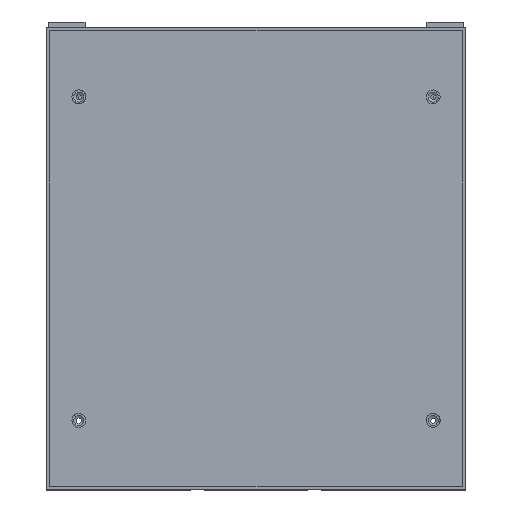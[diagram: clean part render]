
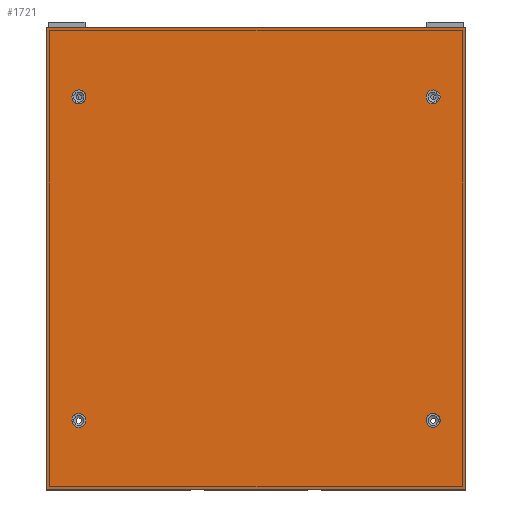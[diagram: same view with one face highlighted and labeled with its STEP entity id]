
A CAD part, top view. The second image highlights one B-rep face of the part: STEP entity #1721.
In plain terms, the highlighted planar face has unit normal (0, 0, 1).
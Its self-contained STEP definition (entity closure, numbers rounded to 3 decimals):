
#1721=ADVANCED_FACE('',(#2962,#2963,#2964,#2965,#2966),#2537,.F.);
#2537=PLANE('',#17333);
#2962=FACE_BOUND('',#3840,.T.);
#2963=FACE_BOUND('',#3841,.T.);
#2964=FACE_BOUND('',#3842,.T.);
#2965=FACE_BOUND('',#3843,.T.);
#2966=FACE_BOUND('',#3844,.T.);
#3840=EDGE_LOOP('',(#7067));
#3841=EDGE_LOOP('',(#7068));
#3842=EDGE_LOOP('',(#7069));
#3843=EDGE_LOOP('',(#7070));
#3844=EDGE_LOOP('',(#7071,#7072,#7073,#7074));
#5188=CIRCLE('',#17329,2.25);
#5189=CIRCLE('',#17330,2.25);
#5190=CIRCLE('',#17331,2.25);
#5191=CIRCLE('',#17332,2.25);
#7067=ORIENTED_EDGE('',*,*,#12974,.F.);
#7068=ORIENTED_EDGE('',*,*,#12975,.F.);
#7069=ORIENTED_EDGE('',*,*,#12976,.F.);
#7070=ORIENTED_EDGE('',*,*,#12977,.F.);
#7071=ORIENTED_EDGE('',*,*,#12649,.F.);
#7072=ORIENTED_EDGE('',*,*,#12978,.F.);
#7073=ORIENTED_EDGE('',*,*,#12579,.F.);
#7074=ORIENTED_EDGE('',*,*,#12979,.F.);
#10860=VERTEX_POINT('',#25528);
#10861=VERTEX_POINT('',#25530);
#10902=VERTEX_POINT('',#25659);
#10903=VERTEX_POINT('',#25661);
#11113=VERTEX_POINT('',#26319);
#11114=VERTEX_POINT('',#26321);
#11115=VERTEX_POINT('',#26323);
#11116=VERTEX_POINT('',#26325);
#12579=EDGE_CURVE('',#10860,#10861,#14644,.T.);
#12649=EDGE_CURVE('',#10902,#10903,#14696,.T.);
#12974=EDGE_CURVE('',#11113,#11113,#5188,.T.);
#12975=EDGE_CURVE('',#11114,#11114,#5189,.T.);
#12976=EDGE_CURVE('',#11115,#11115,#5190,.T.);
#12977=EDGE_CURVE('',#11116,#11116,#5191,.T.);
#12978=EDGE_CURVE('',#10861,#10902,#14898,.T.);
#12979=EDGE_CURVE('',#10903,#10860,#14899,.T.);
#14644=LINE('',#25529,#15840);
#14696=LINE('',#25660,#15892);
#14898=LINE('',#26326,#16094);
#14899=LINE('',#26327,#16095);
#15840=VECTOR('',#19399,1.);
#15892=VECTOR('',#19525,1.);
#16094=VECTOR('',#20227,1.);
#16095=VECTOR('',#20228,1.);
#17329=AXIS2_PLACEMENT_3D('',#26318,#20219,#20220);
#17330=AXIS2_PLACEMENT_3D('',#26320,#20221,#20222);
#17331=AXIS2_PLACEMENT_3D('',#26322,#20223,#20224);
#17332=AXIS2_PLACEMENT_3D('',#26324,#20225,#20226);
#17333=AXIS2_PLACEMENT_3D('',#26328,#20229,#20230);
#19399=DIRECTION('',(0.,1.,0.));
#19525=DIRECTION('',(0.,-1.,0.));
#20219=DIRECTION('',(0.,0.,1.));
#20220=DIRECTION('',(-1.,0.,0.));
#20221=DIRECTION('',(0.,0.,1.));
#20222=DIRECTION('',(1.,0.,0.));
#20223=DIRECTION('',(0.,0.,1.));
#20224=DIRECTION('',(-1.,0.,0.));
#20225=DIRECTION('',(0.,0.,1.));
#20226=DIRECTION('',(1.,0.,0.));
#20227=DIRECTION('',(1.,0.,0.));
#20228=DIRECTION('',(-1.,0.,0.));
#20229=DIRECTION('',(0.,0.,-1.));
#20230=DIRECTION('',(1.,0.,0.));
#25528=CARTESIAN_POINT('',(-68.,-78.,193.));
#25529=CARTESIAN_POINT('',(-68.,72.,193.));
#25530=CARTESIAN_POINT('',(-68.,72.,193.));
#25659=CARTESIAN_POINT('',(68.,72.,193.));
#25660=CARTESIAN_POINT('',(68.,72.,193.));
#25661=CARTESIAN_POINT('',(68.,-78.,193.));
#26318=CARTESIAN_POINT('',(-57.5,-55.5,193.));
#26319=CARTESIAN_POINT('',(-59.75,-55.5,193.));
#26320=CARTESIAN_POINT('',(57.5,-55.5,193.));
#26321=CARTESIAN_POINT('',(59.75,-55.5,193.));
#26322=CARTESIAN_POINT('',(57.5,49.5,193.));
#26323=CARTESIAN_POINT('',(55.25,49.5,193.));
#26324=CARTESIAN_POINT('',(-57.5,49.5,193.));
#26325=CARTESIAN_POINT('',(-55.25,49.5,193.));
#26326=CARTESIAN_POINT('',(68.,72.,193.));
#26327=CARTESIAN_POINT('',(68.,-78.,193.));
#26328=CARTESIAN_POINT('',(0.,-3.,193.));
